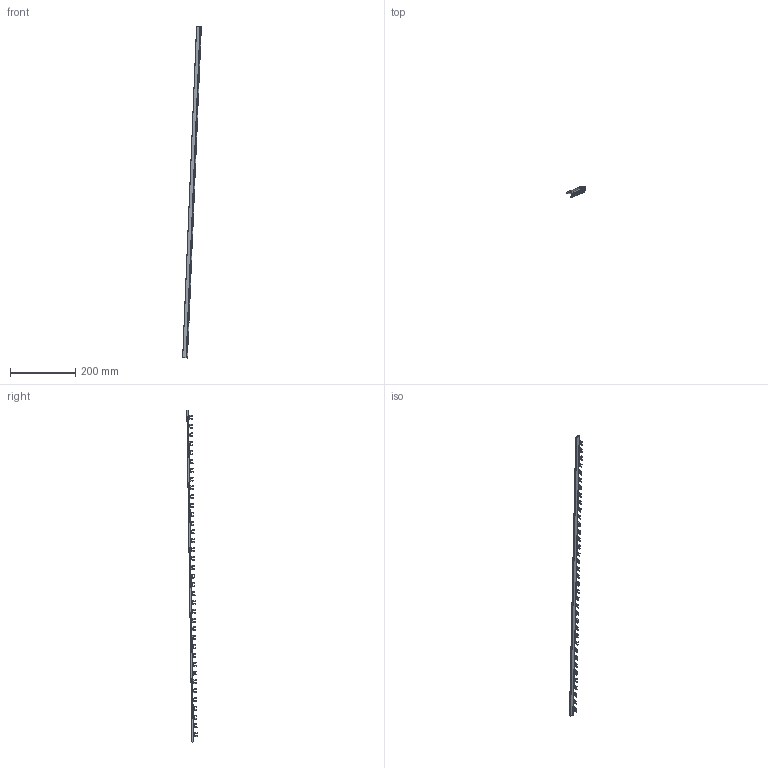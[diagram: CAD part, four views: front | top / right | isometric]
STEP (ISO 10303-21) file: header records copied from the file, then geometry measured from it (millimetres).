
FILE_DESCRIPTION (( 'STEP AP214' ), '1' );
FILE_NAME ('G1L-27-1000-24.step', '2011-08-04T13:35:03', ( 'Radek Veselý' ), ( 'Siemens and Partners' ), 'SwSTEP 2.0', 'SolidWorks 2006303', '' );
FILE_SCHEMA (( 'AUTOMOTIVE_DESIGN' ));
Length unit declared in the file: millimetre
Products named in the file (1): G1L-27-1000-24
Bounding box: 57.25 x 31.7 x 1015.64 mm (x, y, z)
Volume: 59721.3 mm3; surface area: 97095.8 mm2
Topology: 2 solids, 2 shells, 540 faces, 1464 edges, 928 vertices
Faces by surface type: plane 343, cylinder 197
Entity records: 22802 total; most frequent: DIRECTION 2940, CARTESIAN_POINT 2933, ORIENTED_EDGE 2928, EDGE_CURVE 1464, VECTOR 1070, LINE 1070, AXIS2_PLACEMENT_3D 935, VERTEX_POINT 928
